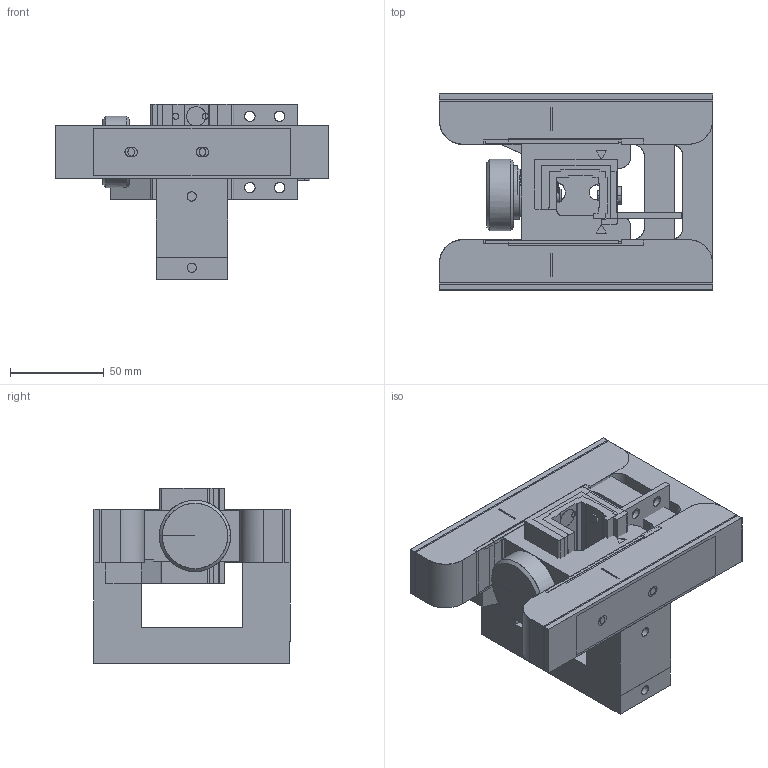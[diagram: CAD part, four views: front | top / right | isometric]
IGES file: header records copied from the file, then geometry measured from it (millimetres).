
Global section: file name: J:\WIP\FIFE WEB\3D (Models)\Model_SE-30-2X2_62626-B.igs; native system: AutoCAD-17.1s (LMS Tech) (Microsoft Windows NT Version 5.1 (x86)); preprocessor: Autodesk IGES Translator Mechanical Desktop 2008 (Feb 13 2007) from Autodesk, Inc.; date: 20080111.135947; units: inch
Bounding box: 146.05 x 105.27 x 93.66 mm (x, y, z)
Surface area: 349327.2 mm2 (no closed solid volume)
Topology: 0 solids, 0 shells, 754 faces, 6949 edges, 7240 vertices
Faces by surface type: bspline 754
